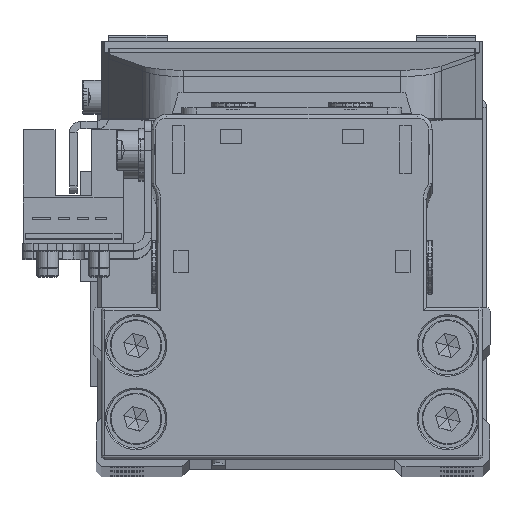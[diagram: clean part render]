
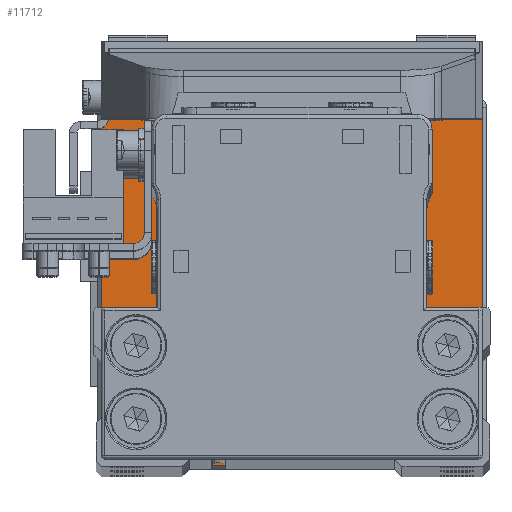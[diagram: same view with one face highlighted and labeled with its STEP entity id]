
A CAD part, top view. The second image highlights one B-rep face of the part: STEP entity #11712.
In plain terms, the highlighted planar face has unit normal (0, 0, 1).
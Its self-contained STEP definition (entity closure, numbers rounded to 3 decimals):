
#249 = EDGE_CURVE ( 'NONE', #22059, #27312, #7151, .T. ) ;
#513 = CIRCLE ( 'NONE', #20004, 2.4 ) ;
#881 = EDGE_LOOP ( 'NONE', ( #29483, #5728, #6187, #20755, #23713, #2531, #19012, #3024 ) ) ;
#1008 = EDGE_CURVE ( 'NONE', #27837, #8645, #12802, .T. ) ;
#1331 = AXIS2_PLACEMENT_3D ( 'NONE', #20742, #31398, #7494 ) ;
#1764 = CIRCLE ( 'NONE', #21254, 1. ) ;
#1884 = EDGE_CURVE ( 'NONE', #10378, #20154, #14752, .T. ) ;
#2085 = FACE_BOUND ( 'NONE', #8770, .T. ) ;
#2233 = VERTEX_POINT ( 'NONE', #23689 ) ;
#2531 = ORIENTED_EDGE ( 'NONE', *, *, #27122, .T. ) ;
#3023 = CIRCLE ( 'NONE', #22522, 1. ) ;
#3024 = ORIENTED_EDGE ( 'NONE', *, *, #27236, .T. ) ;
#3132 = EDGE_CURVE ( 'NONE', #3459, #30142, #513, .T. ) ;
#3249 = DIRECTION ( 'NONE',  ( 0., 0., -1. ) ) ;
#3459 = VERTEX_POINT ( 'NONE', #28619 ) ;
#3757 = CARTESIAN_POINT ( 'NONE',  ( 23.65, 19.95, 6.5 ) ) ;
#3863 = EDGE_LOOP ( 'NONE', ( #6825, #20219 ) ) ;
#4440 = VECTOR ( 'NONE', #5030, 1000. ) ;
#4685 = ORIENTED_EDGE ( 'NONE', *, *, #17644, .T. ) ;
#4691 = CARTESIAN_POINT ( 'NONE',  ( 26., 23.95, 6.5 ) ) ;
#5030 = DIRECTION ( 'NONE',  ( 0., -1., 0. ) ) ;
#5039 = DIRECTION ( 'NONE',  ( 0., 0., 1. ) ) ;
#5208 = EDGE_CURVE ( 'NONE', #31990, #26383, #27579, .T. ) ;
#5560 = DIRECTION ( 'NONE',  ( 1., 0., 0. ) ) ;
#5568 = AXIS2_PLACEMENT_3D ( 'NONE', #30172, #6273, #16899 ) ;
#5728 = ORIENTED_EDGE ( 'NONE', *, *, #12807, .T. ) ;
#5762 = VECTOR ( 'NONE', #19795, 1000. ) ;
#6187 = ORIENTED_EDGE ( 'NONE', *, *, #11273, .T. ) ;
#6273 = DIRECTION ( 'NONE',  ( 0., 0., -1. ) ) ;
#6825 = ORIENTED_EDGE ( 'NONE', *, *, #5208, .T. ) ;
#7151 = LINE ( 'NONE', #17779, #26221 ) ;
#7371 = CARTESIAN_POINT ( 'NONE',  ( 23.65, 9.95, 6.5 ) ) ;
#7494 = DIRECTION ( 'NONE',  ( 1., 0., 0. ) ) ;
#8196 = VERTEX_POINT ( 'NONE', #26747 ) ;
#8645 = VERTEX_POINT ( 'NONE', #26890 ) ;
#8652 = LINE ( 'NONE', #19297, #13546 ) ;
#8770 = EDGE_LOOP ( 'NONE', ( #26424, #23601 ) ) ;
#9101 = CARTESIAN_POINT ( 'NONE',  ( -21.25, 19.95, 6.5 ) ) ;
#9155 = CARTESIAN_POINT ( 'NONE',  ( -25., 24.95, 6.5 ) ) ;
#9715 = EDGE_CURVE ( 'NONE', #26383, #31990, #11493, .T. ) ;
#9787 = DIRECTION ( 'NONE',  ( -1., 0., 0. ) ) ;
#10098 = PLANE ( 'NONE',  #1331 ) ;
#10258 = CIRCLE ( 'NONE', #29764, 2.4 ) ;
#10335 = DIRECTION ( 'NONE',  ( 0., 0., -1. ) ) ;
#10364 = CARTESIAN_POINT ( 'NONE',  ( 26., -23.95, 6.5 ) ) ;
#10378 = VERTEX_POINT ( 'NONE', #4691 ) ;
#10453 = DIRECTION ( 'NONE',  ( -1., 0., 0. ) ) ;
#10601 = DIRECTION ( 'NONE',  ( 0., 0., 1. ) ) ;
#11205 = ORIENTED_EDGE ( 'NONE', *, *, #26524, .T. ) ;
#11242 = CARTESIAN_POINT ( 'NONE',  ( 21.25, 19.95, 6.5 ) ) ;
#11273 = EDGE_CURVE ( 'NONE', #8196, #22059, #31404, .T. ) ;
#11463 = CARTESIAN_POINT ( 'NONE',  ( -23.65, 19.95, 6.5 ) ) ;
#11493 = CIRCLE ( 'NONE', #30983, 2.4 ) ;
#11712 = ADVANCED_FACE ( 'NONE', ( #26010, #2085, #12731, #23371, #34014 ), #10098, .T. ) ;
#11771 = EDGE_LOOP ( 'NONE', ( #25940, #31766 ) ) ;
#12175 = CARTESIAN_POINT ( 'NONE',  ( -21.25, 19.95, 6.5 ) ) ;
#12521 = AXIS2_PLACEMENT_3D ( 'NONE', #12175, #22814, #33450 ) ;
#12642 = CARTESIAN_POINT ( 'NONE',  ( -25., -24.95, 6.5 ) ) ;
#12731 = FACE_BOUND ( 'NONE', #26587, .T. ) ;
#12802 = CIRCLE ( 'NONE', #32294, 2.4 ) ;
#12807 = EDGE_CURVE ( 'NONE', #21586, #8196, #18296, .T. ) ;
#12939 = CARTESIAN_POINT ( 'NONE',  ( -25., -23.95, 6.5 ) ) ;
#13546 = VECTOR ( 'NONE', #29942, 1000. ) ;
#13894 = DIRECTION ( 'NONE',  ( -1., 0., 0. ) ) ;
#14752 = CIRCLE ( 'NONE', #34270, 1. ) ;
#14835 = CARTESIAN_POINT ( 'NONE',  ( -18.85, 19.95, 6.5 ) ) ;
#15692 = DIRECTION ( 'NONE',  ( 1., 0., 0. ) ) ;
#16351 = AXIS2_PLACEMENT_3D ( 'NONE', #12939, #23584, #34232 ) ;
#16899 = DIRECTION ( 'NONE',  ( -1., 0., 0. ) ) ;
#17644 = EDGE_CURVE ( 'NONE', #2233, #18285, #10258, .T. ) ;
#17698 = CARTESIAN_POINT ( 'NONE',  ( 25., -24.95, 6.5 ) ) ;
#17779 = CARTESIAN_POINT ( 'NONE',  ( 25., -24.95, 6.5 ) ) ;
#18285 = VERTEX_POINT ( 'NONE', #29440 ) ;
#18296 = LINE ( 'NONE', #28959, #4440 ) ;
#18824 = CARTESIAN_POINT ( 'NONE',  ( 25., 23.95, 6.5 ) ) ;
#19012 = ORIENTED_EDGE ( 'NONE', *, *, #1884, .T. ) ;
#19297 = CARTESIAN_POINT ( 'NONE',  ( 26., 23.95, 6.5 ) ) ;
#19737 = DIRECTION ( 'NONE',  ( 0., 0., -1. ) ) ;
#19795 = DIRECTION ( 'NONE',  ( -1., 0., 0. ) ) ;
#20004 = AXIS2_PLACEMENT_3D ( 'NONE', #34250, #10335, #20971 ) ;
#20154 = VERTEX_POINT ( 'NONE', #29574 ) ;
#20219 = ORIENTED_EDGE ( 'NONE', *, *, #9715, .T. ) ;
#20280 = CIRCLE ( 'NONE', #24757, 2.4 ) ;
#20608 = CIRCLE ( 'NONE', #5568, 2.4 ) ;
#20742 = CARTESIAN_POINT ( 'NONE',  ( 0., 0., 6.5 ) ) ;
#20755 = ORIENTED_EDGE ( 'NONE', *, *, #249, .T. ) ;
#20971 = DIRECTION ( 'NONE',  ( -1., 0., 0. ) ) ;
#21207 = CARTESIAN_POINT ( 'NONE',  ( -25., 23.95, 6.5 ) ) ;
#21241 = DIRECTION ( 'NONE',  ( 1., 0., 0. ) ) ;
#21254 = AXIS2_PLACEMENT_3D ( 'NONE', #21207, #10601, #21241 ) ;
#21586 = VERTEX_POINT ( 'NONE', #25942 ) ;
#21868 = CIRCLE ( 'NONE', #26340, 2.4 ) ;
#21873 = DIRECTION ( 'NONE',  ( 0., 0., -1. ) ) ;
#22059 = VERTEX_POINT ( 'NONE', #12642 ) ;
#22522 = AXIS2_PLACEMENT_3D ( 'NONE', #28968, #5039, #15692 ) ;
#22808 = EDGE_CURVE ( 'NONE', #8645, #27837, #20608, .T. ) ;
#22814 = DIRECTION ( 'NONE',  ( 0., 0., -1. ) ) ;
#23050 = CARTESIAN_POINT ( 'NONE',  ( -21.25, 9.95, 6.5 ) ) ;
#23371 = FACE_BOUND ( 'NONE', #3863, .T. ) ;
#23584 = DIRECTION ( 'NONE',  ( 0., 0., 1. ) ) ;
#23601 = ORIENTED_EDGE ( 'NONE', *, *, #1008, .T. ) ;
#23689 = CARTESIAN_POINT ( 'NONE',  ( -23.65, 9.95, 6.5 ) ) ;
#23713 = ORIENTED_EDGE ( 'NONE', *, *, #34348, .T. ) ;
#23727 = CARTESIAN_POINT ( 'NONE',  ( -21.25, 9.95, 6.5 ) ) ;
#24380 = EDGE_CURVE ( 'NONE', #27004, #21586, #1764, .T. ) ;
#24757 = AXIS2_PLACEMENT_3D ( 'NONE', #11242, #21873, #32527 ) ;
#25940 = ORIENTED_EDGE ( 'NONE', *, *, #3132, .T. ) ;
#25942 = CARTESIAN_POINT ( 'NONE',  ( -26., 23.95, 6.5 ) ) ;
#26010 = FACE_BOUND ( 'NONE', #11771, .T. ) ;
#26221 = VECTOR ( 'NONE', #28454, 1000. ) ;
#26340 = AXIS2_PLACEMENT_3D ( 'NONE', #23727, #34379, #10453 ) ;
#26383 = VERTEX_POINT ( 'NONE', #14835 ) ;
#26424 = ORIENTED_EDGE ( 'NONE', *, *, #22808, .T. ) ;
#26524 = EDGE_CURVE ( 'NONE', #18285, #2233, #21868, .T. ) ;
#26587 = EDGE_LOOP ( 'NONE', ( #4685, #11205 ) ) ;
#26747 = CARTESIAN_POINT ( 'NONE',  ( -26., -23.95, 6.5 ) ) ;
#26890 = CARTESIAN_POINT ( 'NONE',  ( 18.85, 9.95, 6.5 ) ) ;
#27004 = VERTEX_POINT ( 'NONE', #34494 ) ;
#27122 = EDGE_CURVE ( 'NONE', #29050, #10378, #8652, .T. ) ;
#27174 = CARTESIAN_POINT ( 'NONE',  ( 21.25, 9.95, 6.5 ) ) ;
#27236 = EDGE_CURVE ( 'NONE', #20154, #27004, #33058, .T. ) ;
#27312 = VERTEX_POINT ( 'NONE', #17698 ) ;
#27579 = CIRCLE ( 'NONE', #12521, 2.4 ) ;
#27837 = VERTEX_POINT ( 'NONE', #7371 ) ;
#28454 = DIRECTION ( 'NONE',  ( 1., 0., 0. ) ) ;
#28619 = CARTESIAN_POINT ( 'NONE',  ( 18.85, 19.95, 6.5 ) ) ;
#28959 = CARTESIAN_POINT ( 'NONE',  ( -26., -23.95, 6.5 ) ) ;
#28968 = CARTESIAN_POINT ( 'NONE',  ( 25., -23.95, 6.5 ) ) ;
#29050 = VERTEX_POINT ( 'NONE', #10364 ) ;
#29440 = CARTESIAN_POINT ( 'NONE',  ( -18.85, 9.95, 6.5 ) ) ;
#29474 = DIRECTION ( 'NONE',  ( 0., 0., 1. ) ) ;
#29483 = ORIENTED_EDGE ( 'NONE', *, *, #24380, .T. ) ;
#29574 = CARTESIAN_POINT ( 'NONE',  ( 25., 24.95, 6.5 ) ) ;
#29764 = AXIS2_PLACEMENT_3D ( 'NONE', #23050, #33698, #9787 ) ;
#29942 = DIRECTION ( 'NONE',  ( 0., 1., 0. ) ) ;
#30142 = VERTEX_POINT ( 'NONE', #3757 ) ;
#30172 = CARTESIAN_POINT ( 'NONE',  ( 21.25, 9.95, 6.5 ) ) ;
#30394 = DIRECTION ( 'NONE',  ( -1., 0., 0. ) ) ;
#30983 = AXIS2_PLACEMENT_3D ( 'NONE', #9101, #19737, #30394 ) ;
#31398 = DIRECTION ( 'NONE',  ( 0., 0., 1. ) ) ;
#31404 = CIRCLE ( 'NONE', #16351, 1. ) ;
#31766 = ORIENTED_EDGE ( 'NONE', *, *, #34135, .T. ) ;
#31990 = VERTEX_POINT ( 'NONE', #11463 ) ;
#32294 = AXIS2_PLACEMENT_3D ( 'NONE', #27174, #3249, #13894 ) ;
#32527 = DIRECTION ( 'NONE',  ( -1., 0., 0. ) ) ;
#33058 = LINE ( 'NONE', #9155, #5762 ) ;
#33450 = DIRECTION ( 'NONE',  ( -1., 0., 0. ) ) ;
#33698 = DIRECTION ( 'NONE',  ( 0., 0., -1. ) ) ;
#34014 = FACE_OUTER_BOUND ( 'NONE', #881, .T. ) ;
#34135 = EDGE_CURVE ( 'NONE', #30142, #3459, #20280, .T. ) ;
#34232 = DIRECTION ( 'NONE',  ( 1., 0., 0. ) ) ;
#34250 = CARTESIAN_POINT ( 'NONE',  ( 21.25, 19.95, 6.5 ) ) ;
#34270 = AXIS2_PLACEMENT_3D ( 'NONE', #18824, #29474, #5560 ) ;
#34348 = EDGE_CURVE ( 'NONE', #27312, #29050, #3023, .T. ) ;
#34379 = DIRECTION ( 'NONE',  ( 0., 0., -1. ) ) ;
#34494 = CARTESIAN_POINT ( 'NONE',  ( -25., 24.95, 6.5 ) ) ;
